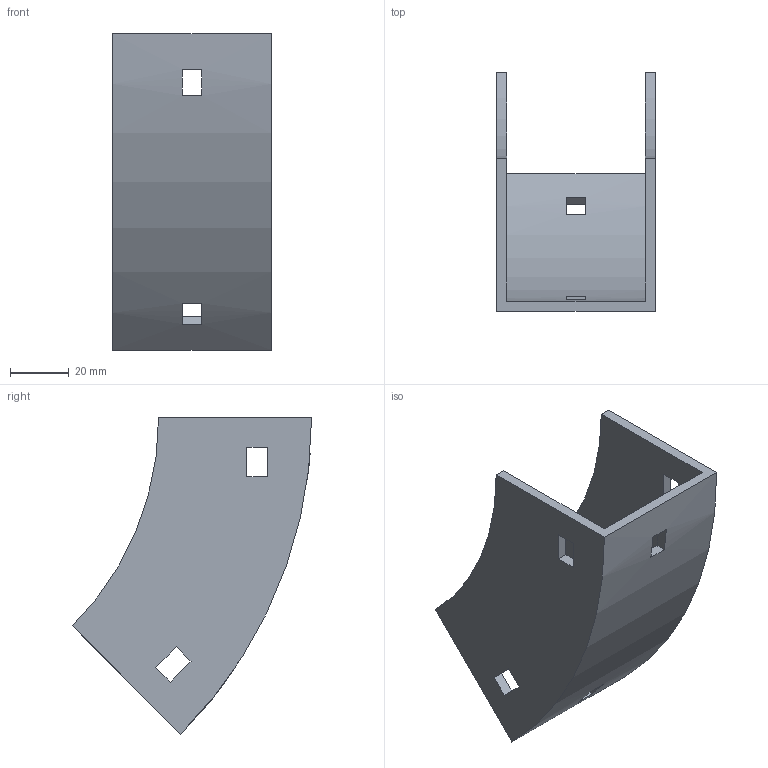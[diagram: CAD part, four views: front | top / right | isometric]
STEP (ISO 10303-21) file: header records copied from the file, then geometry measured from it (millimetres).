
FILE_DESCRIPTION (( 'STEP AP214' ), '1' );
FILE_NAME ('31B1B050.step', '2025-02-21T09:46:24', ( '' ), ( '' ), 'SwSTEP 2.0', 'SolidWorks 2023', '' );
FILE_SCHEMA (( 'AUTOMOTIVE_DESIGN' ));
Length unit declared in the file: millimetre
Products named in the file (1): 31B1B050
Bounding box: 54 x 81.29 x 107.48 mm (x, y, z)
Volume: 54041.4 mm3; surface area: 33191.6 mm2
Topology: 1 solids, 1 shells, 34 faces, 96 edges, 64 vertices
Faces by surface type: plane 30, cylinder 4
Entity records: 1143 total; most frequent: CARTESIAN_POINT 195, ORIENTED_EDGE 192, DIRECTION 182, EDGE_CURVE 96, LINE 80, VECTOR 80, VERTEX_POINT 64, AXIS2_PLACEMENT_3D 51
